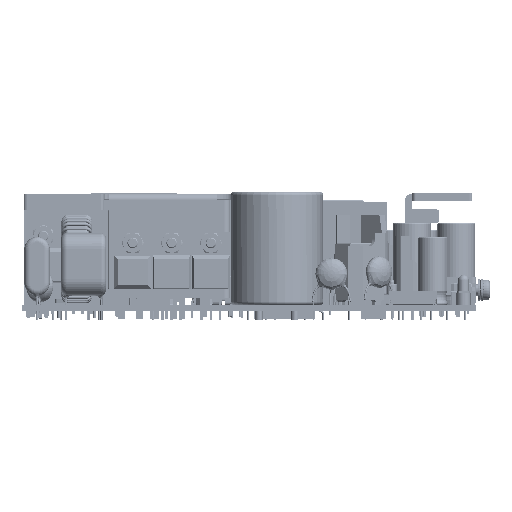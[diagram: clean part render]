
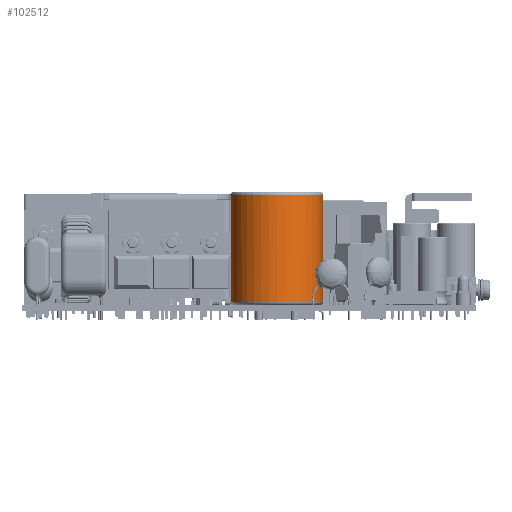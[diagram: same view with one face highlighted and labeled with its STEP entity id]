
A CAD part, top view. The second image highlights one B-rep face of the part: STEP entity #102512.
In plain terms, the highlighted cylindrical face has radius 12.95 mm (diameter 25.9 mm), a partial arc.
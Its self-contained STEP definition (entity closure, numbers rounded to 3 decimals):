
#102224=CARTESIAN_POINT('',(0.,0.,1.));
#102225=DIRECTION('',(0.,0.,1.));
#102226=DIRECTION('',(-1.,0.,0.));
#102227=AXIS2_PLACEMENT_3D('',#102224,#102225,#102226);
#102229=CARTESIAN_POINT('',(0.,0.,1.));
#102230=DIRECTION('',(0.,0.,1.));
#102231=DIRECTION('',(-1.,-0.015,0.));
#102232=AXIS2_PLACEMENT_3D('',#102229,#102230,#102231);
#102239=CARTESIAN_POINT('',(0.,0.,30.7));
#102240=DIRECTION('',(0.,0.,-1.));
#102241=DIRECTION('',(1.,0.,0.));
#102242=AXIS2_PLACEMENT_3D('',#102239,#102240,#102241);
#102244=CARTESIAN_POINT('',(0.,0.,30.7));
#102245=DIRECTION('',(0.,0.,-1.));
#102246=DIRECTION('',(1.,-0.021,0.));
#102247=AXIS2_PLACEMENT_3D('',#102244,#102245,#102246);
#102299=DIRECTION('',(0.,0.,-1.));
#102300=VECTOR('',#102299,29.7);
#102301=CARTESIAN_POINT('',(-12.95,0.,30.7));
#102302=LINE('',#102301,#102300);
#102303=DIRECTION('',(0.,0.,1.));
#102304=VECTOR('',#102303,29.7);
#102305=CARTESIAN_POINT('',(12.95,0.,1.));
#102306=LINE('',#102305,#102304);
#102373=CARTESIAN_POINT('',(12.95,0.,1.));
#102374=VERTEX_POINT('',#102373);
#102376=CARTESIAN_POINT('',(-12.95,0.,1.));
#102378=VERTEX_POINT('',#102376);
#102379=CARTESIAN_POINT('',(-12.949,-0.196,1.));
#102380=VERTEX_POINT('',#102379);
#102381=CARTESIAN_POINT('',(12.947,-0.278,30.7));
#102382=CARTESIAN_POINT('',(-12.95,0.,30.7));
#102383=VERTEX_POINT('',#102381);
#102384=VERTEX_POINT('',#102382);
#102385=CARTESIAN_POINT('',(12.95,0.,30.7));
#102386=VERTEX_POINT('',#102385);
#102495=CARTESIAN_POINT('',(0.,0.,0.));
#102496=DIRECTION('',(0.,0.,-1.));
#102497=DIRECTION('',(-1.,0.,0.));
#102498=AXIS2_PLACEMENT_3D('',#102495,#102496,#102497);
#102499=CYLINDRICAL_SURFACE('',#102498,12.95);
#102501=ORIENTED_EDGE('',*,*,#102500,.F.);
#102503=ORIENTED_EDGE('',*,*,#102502,.F.);
#102505=ORIENTED_EDGE('',*,*,#102504,.F.);
#102506=ORIENTED_EDGE('',*,*,#102482,.F.);
#102507=ORIENTED_EDGE('',*,*,#102480,.F.);
#102509=ORIENTED_EDGE('',*,*,#102508,.F.);
#102510=EDGE_LOOP('',(#102501,#102503,#102505,#102506,#102507,#102509));
#102511=FACE_OUTER_BOUND('',#102510,.F.);
#102228=CIRCLE('',#102227,12.95);
#102233=CIRCLE('',#102232,12.95);
#102243=CIRCLE('',#102242,12.95);
#102248=CIRCLE('',#102247,12.95);
#102480=EDGE_CURVE('',#102378,#102380,#102228,.T.);
#102482=EDGE_CURVE('',#102380,#102374,#102233,.T.);
#102500=EDGE_CURVE('',#102383,#102384,#102248,.T.);
#102502=EDGE_CURVE('',#102386,#102383,#102243,.T.);
#102504=EDGE_CURVE('',#102374,#102386,#102306,.T.);
#102508=EDGE_CURVE('',#102384,#102378,#102302,.T.);
#102512=ADVANCED_FACE('',(#102511),#102499,.T.);
